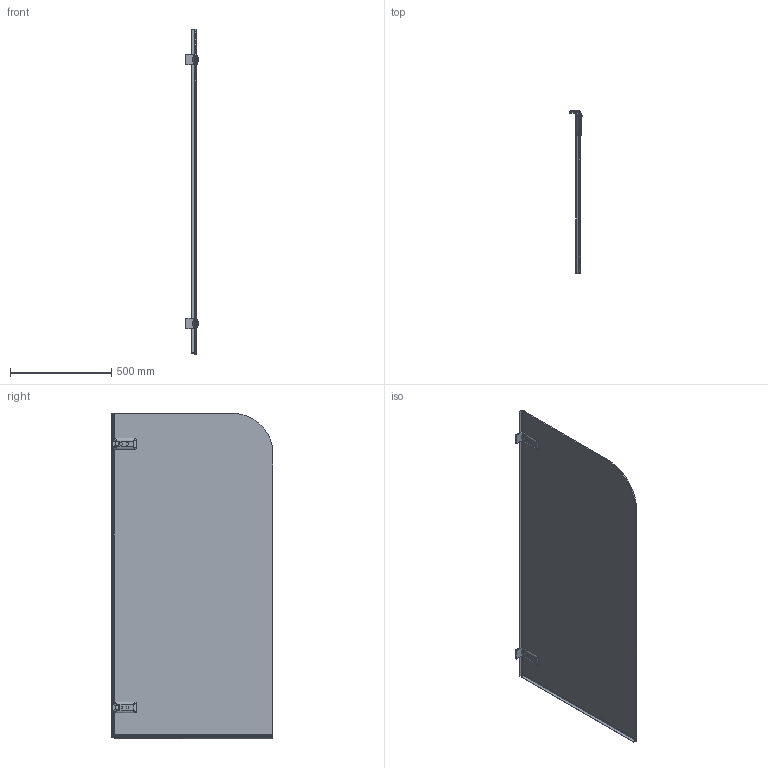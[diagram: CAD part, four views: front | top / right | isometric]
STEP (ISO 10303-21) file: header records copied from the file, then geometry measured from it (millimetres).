
FILE_DESCRIPTION(/* description */ (''),/* implementation_level */ '2;1');
FILE_NAME(/* name */ 'E:\Работа\Сергей\Душевые кабинки\! Работа\TREND PEARL GV-861B\TREND PEARL GV-861B правая модель\TREND PEARL GV-861B ПРАВАЯ-3D.stp',/* time_stamp */ '2018-03-20T19:57:48+03:00',/* author */ ('PC'),/* organization */ (''),/* preprocessor_version */ 'ST-DEVELOPER v15.2',/* originating_system */ 'Autodesk Inventor 2014',/* authorisation */ '');
FILE_SCHEMA (('AUTOMOTIVE_DESIGN { 1 0 10303 214 3 1 1 }'));
Length unit declared in the file: millimetre
Products named in the file (1): TREND PEARL GV-861B ПРАВАЯ-3
D
Bounding box: 59.49 x 798.7 x 1603.4 mm (x, y, z)
Volume: 7952239.4 mm3; surface area: 2727679.3 mm2
Topology: 1 solids, 1 shells, 359 faces, 1082 edges, 696 vertices
Faces by surface type: plane 217, cylinder 118, bspline 16, sphere 4, torus 4
Full cylindrical faces by diameter (mm): 12 x2
Entity records: 12989 total; most frequent: CARTESIAN_POINT 2738, ORIENTED_EDGE 2120, DIRECTION 2003, EDGE_CURVE 1060, LINE 753, VECTOR 753, VERTEX_POINT 696, AXIS2_PLACEMENT_3D 625
